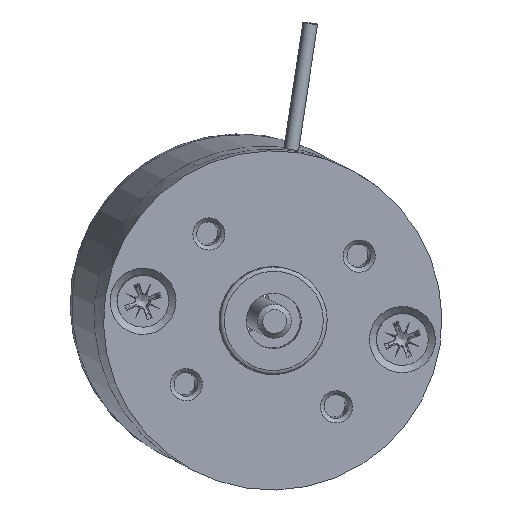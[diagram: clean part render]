
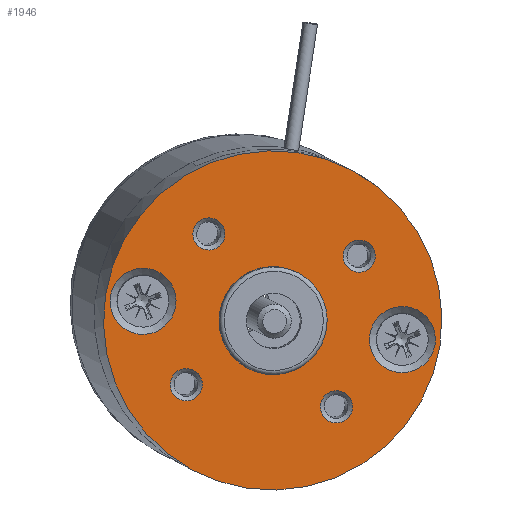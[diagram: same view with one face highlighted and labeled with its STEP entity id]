
A CAD part, top view. The second image highlights one B-rep face of the part: STEP entity #1946.
In plain terms, the highlighted planar face has unit normal (0.085, -0.045, 0.995) as drawn and (0, 0, 1) by its records, which use the part's own axes.
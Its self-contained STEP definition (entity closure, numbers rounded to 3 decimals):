
#191=FACE_BOUND('',#490,.T.);
#192=FACE_BOUND('',#491,.T.);
#193=FACE_BOUND('',#492,.T.);
#194=FACE_BOUND('',#493,.T.);
#195=FACE_BOUND('',#494,.T.);
#196=FACE_BOUND('',#495,.T.);
#197=FACE_BOUND('',#496,.T.);
#245=PLANE('',#2380);
#352=FACE_OUTER_BOUND('',#489,.T.);
#489=EDGE_LOOP('',(#1771));
#490=EDGE_LOOP('',(#1772,#1773));
#491=EDGE_LOOP('',(#1774,#1775));
#492=EDGE_LOOP('',(#1776));
#493=EDGE_LOOP('',(#1777));
#494=EDGE_LOOP('',(#1778));
#495=EDGE_LOOP('',(#1779));
#496=EDGE_LOOP('',(#1780));
#807=CIRCLE('',#2354,20.);
#813=CIRCLE('',#2366,1.9);
#816=CIRCLE('',#2371,1.9);
#819=CIRCLE('',#2376,1.9);
#822=CIRCLE('',#2381,3.9);
#823=CIRCLE('',#2382,3.9);
#824=CIRCLE('',#2383,3.9);
#825=CIRCLE('',#2384,3.9);
#826=CIRCLE('',#2385,6.35);
#827=CIRCLE('',#2386,1.9);
#981=VERTEX_POINT('',#3727);
#989=VERTEX_POINT('',#3755);
#992=VERTEX_POINT('',#3765);
#995=VERTEX_POINT('',#3775);
#998=VERTEX_POINT('',#3785);
#999=VERTEX_POINT('',#3786);
#1000=VERTEX_POINT('',#3789);
#1001=VERTEX_POINT('',#3790);
#1002=VERTEX_POINT('',#3793);
#1003=VERTEX_POINT('',#3795);
#1231=EDGE_CURVE('',#981,#981,#807,.T.);
#1246=EDGE_CURVE('',#989,#989,#813,.T.);
#1251=EDGE_CURVE('',#992,#992,#816,.T.);
#1256=EDGE_CURVE('',#995,#995,#819,.T.);
#1260=EDGE_CURVE('',#998,#999,#822,.T.);
#1261=EDGE_CURVE('',#999,#998,#823,.T.);
#1262=EDGE_CURVE('',#1000,#1001,#824,.T.);
#1263=EDGE_CURVE('',#1001,#1000,#825,.T.);
#1264=EDGE_CURVE('',#1002,#1002,#826,.T.);
#1265=EDGE_CURVE('',#1003,#1003,#827,.T.);
#1771=ORIENTED_EDGE('',*,*,#1231,.F.);
#1772=ORIENTED_EDGE('',*,*,#1260,.T.);
#1773=ORIENTED_EDGE('',*,*,#1261,.T.);
#1774=ORIENTED_EDGE('',*,*,#1262,.T.);
#1775=ORIENTED_EDGE('',*,*,#1263,.T.);
#1776=ORIENTED_EDGE('',*,*,#1256,.F.);
#1777=ORIENTED_EDGE('',*,*,#1246,.F.);
#1778=ORIENTED_EDGE('',*,*,#1264,.T.);
#1779=ORIENTED_EDGE('',*,*,#1251,.F.);
#1780=ORIENTED_EDGE('',*,*,#1265,.F.);
#1946=ADVANCED_FACE('',(#352,#191,#192,#193,#194,#195,#196,#197),#245,.F.);
#2354=AXIS2_PLACEMENT_3D('',#3728,#2906,#2907);
#2366=AXIS2_PLACEMENT_3D('',#3757,#2939,#2940);
#2371=AXIS2_PLACEMENT_3D('',#3767,#2951,#2952);
#2376=AXIS2_PLACEMENT_3D('',#3777,#2963,#2964);
#2380=AXIS2_PLACEMENT_3D('',#3784,#2972,#2973);
#2381=AXIS2_PLACEMENT_3D('',#3787,#2974,#2975);
#2382=AXIS2_PLACEMENT_3D('',#3788,#2976,#2977);
#2383=AXIS2_PLACEMENT_3D('',#3791,#2978,#2979);
#2384=AXIS2_PLACEMENT_3D('',#3792,#2980,#2981);
#2385=AXIS2_PLACEMENT_3D('',#3794,#2982,#2983);
#2386=AXIS2_PLACEMENT_3D('',#3796,#2984,#2985);
#2906=DIRECTION('center_axis',(0.,0.,-1.));
#2907=DIRECTION('ref_axis',(-1.,0.,0.));
#2939=DIRECTION('center_axis',(0.,0.,1.));
#2940=DIRECTION('ref_axis',(-1.,0.,0.));
#2951=DIRECTION('center_axis',(0.,0.,1.));
#2952=DIRECTION('ref_axis',(0.,1.,0.));
#2963=DIRECTION('center_axis',(0.,0.,1.));
#2964=DIRECTION('ref_axis',(1.,0.,0.));
#2972=DIRECTION('center_axis',(0.,0.,-1.));
#2973=DIRECTION('ref_axis',(-1.,0.,0.));
#2974=DIRECTION('center_axis',(0.,0.,-1.));
#2975=DIRECTION('ref_axis',(-1.,0.,0.));
#2976=DIRECTION('center_axis',(0.,0.,-1.));
#2977=DIRECTION('ref_axis',(-1.,0.,0.));
#2978=DIRECTION('center_axis',(0.,0.,-1.));
#2979=DIRECTION('ref_axis',(1.,0.,0.));
#2980=DIRECTION('center_axis',(0.,0.,-1.));
#2981=DIRECTION('ref_axis',(1.,0.,0.));
#2982=DIRECTION('center_axis',(0.,0.,-1.));
#2983=DIRECTION('ref_axis',(-1.,0.,0.));
#2984=DIRECTION('center_axis',(0.,0.,1.));
#2985=DIRECTION('ref_axis',(0.,-1.,0.));
#3727=CARTESIAN_POINT('',(20.,0.,12.6));
#3728=CARTESIAN_POINT('Origin',(0.,0.,12.6));
#3755=CARTESIAN_POINT('',(10.88,8.98,12.6));
#3757=CARTESIAN_POINT('Origin',(8.98,8.98,12.6));
#3765=CARTESIAN_POINT('',(8.98,-10.88,12.6));
#3767=CARTESIAN_POINT('Origin',(8.98,-8.98,12.6));
#3775=CARTESIAN_POINT('',(-10.88,-8.98,12.6));
#3777=CARTESIAN_POINT('Origin',(-8.98,-8.98,12.6));
#3784=CARTESIAN_POINT('Origin',(0.,0.,12.6));
#3785=CARTESIAN_POINT('',(-19.4,0.,12.6));
#3786=CARTESIAN_POINT('',(-11.6,0.,12.6));
#3787=CARTESIAN_POINT('Origin',(-15.5,0.,12.6));
#3788=CARTESIAN_POINT('Origin',(-15.5,0.,12.6));
#3789=CARTESIAN_POINT('',(19.4,0.,12.6));
#3790=CARTESIAN_POINT('',(11.6,0.,12.6));
#3791=CARTESIAN_POINT('Origin',(15.5,0.,12.6));
#3792=CARTESIAN_POINT('Origin',(15.5,0.,12.6));
#3793=CARTESIAN_POINT('',(6.35,0.,12.6));
#3794=CARTESIAN_POINT('Origin',(0.,0.,12.6));
#3795=CARTESIAN_POINT('',(-8.98,10.88,12.6));
#3796=CARTESIAN_POINT('Origin',(-8.98,8.98,12.6));
